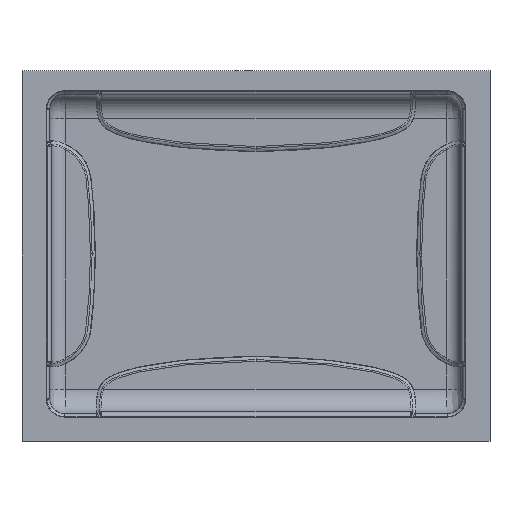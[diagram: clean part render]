
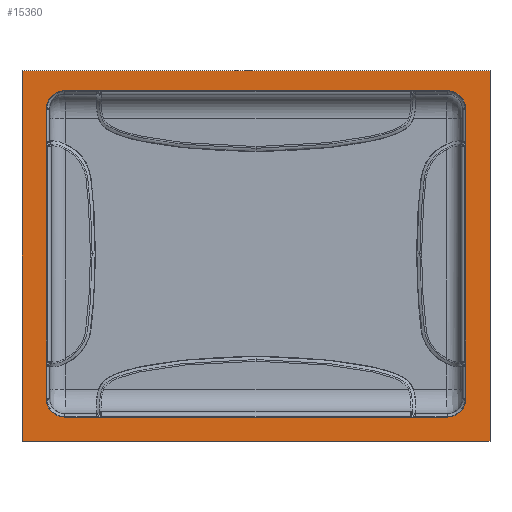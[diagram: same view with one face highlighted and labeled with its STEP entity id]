
A CAD part, front view. The second image highlights one B-rep face of the part: STEP entity #15360.
In plain terms, the highlighted planar face has unit normal (0, -1, 0).
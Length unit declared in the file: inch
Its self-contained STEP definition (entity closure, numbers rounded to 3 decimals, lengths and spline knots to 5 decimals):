
#86 = VECTOR ( 'NONE', #10692, 39.37008 ) ;
#95 = DIRECTION ( 'NONE',  ( 1., 0., 0. ) ) ;
#137 = ORIENTED_EDGE ( 'NONE', *, *, #2516, .T. ) ;
#902 = EDGE_CURVE ( 'NONE', #22238, #20804, #23132, .T. ) ;
#1023 = CARTESIAN_POINT ( 'NONE',  ( -11.25629, 0., -10.06135 ) ) ;
#1305 = DIRECTION ( 'NONE',  ( -1., 0., 0. ) ) ;
#1983 = ORIENTED_EDGE ( 'NONE', *, *, #4108, .T. ) ;
#2516 = EDGE_CURVE ( 'NONE', #20434, #21615, #12519, .T. ) ;
#2784 = LINE ( 'NONE', #14876, #18241 ) ;
#3796 = ORIENTED_EDGE ( 'NONE', *, *, #5073, .F. ) ;
#3828 = VERTEX_POINT ( 'NONE', #8067 ) ;
#4108 = EDGE_CURVE ( 'NONE', #21615, #22238, #5225, .T. ) ;
#4146 = FACE_BOUND ( 'NONE', #15348, .T. ) ;
#4291 = DIRECTION ( 'NONE',  ( 0., -1., 0. ) ) ;
#4378 = ORIENTED_EDGE ( 'NONE', *, *, #21601, .F. ) ;
#4392 = PLANE ( 'NONE',  #13580 ) ;
#4981 = DIRECTION ( 'NONE',  ( 0., 0., 1. ) ) ;
#5073 = EDGE_CURVE ( 'NONE', #3828, #22304, #2784, .T. ) ;
#5225 = LINE ( 'NONE', #24230, #86 ) ;
#5334 = CARTESIAN_POINT ( 'NONE',  ( -11.25629, 0., 7.79135 ) ) ;
#5882 = VERTEX_POINT ( 'NONE', #20317 ) ;
#5930 = EDGE_CURVE ( 'NONE', #12749, #5882, #23689, .T. ) ;
#5931 = DIRECTION ( 'NONE',  ( 0., -1., 0. ) ) ;
#6530 = EDGE_LOOP ( 'NONE', ( #13279, #14125, #137, #1983 ) ) ;
#6563 = EDGE_CURVE ( 'NONE', #20804, #20434, #23317, .T. ) ;
#7244 = FACE_OUTER_BOUND ( 'NONE', #6530, .T. ) ;
#7856 = CARTESIAN_POINT ( 'NONE',  ( -10.29135, 0., 7.79135 ) ) ;
#7867 = CARTESIAN_POINT ( 'NONE',  ( 12.56135, 0., 9.8376 ) ) ;
#7887 = EDGE_CURVE ( 'NONE', #10789, #11804, #8138, .T. ) ;
#8067 = CARTESIAN_POINT ( 'NONE',  ( 10.29135, 0., 8.75629 ) ) ;
#8138 = CIRCLE ( 'NONE', #21780, 0.96494 ) ;
#8267 = VECTOR ( 'NONE', #23303, 39.37008 ) ;
#8432 = LINE ( 'NONE', #20377, #22673 ) ;
#9059 = CARTESIAN_POINT ( 'NONE',  ( 12.56135, 0., -10.06135 ) ) ;
#9468 = CARTESIAN_POINT ( 'NONE',  ( -10.29135, 0., 8.75629 ) ) ;
#9626 = VECTOR ( 'NONE', #95, 39.37008 ) ;
#9761 = CARTESIAN_POINT ( 'NONE',  ( -12.56137, 0., 9.8376 ) ) ;
#9814 = DIRECTION ( 'NONE',  ( 0., 0., -1. ) ) ;
#9933 = ORIENTED_EDGE ( 'NONE', *, *, #17799, .F. ) ;
#9950 = CIRCLE ( 'NONE', #14410, 0.96494 ) ;
#10239 = DIRECTION ( 'NONE',  ( 0., 0., -1. ) ) ;
#10676 = DIRECTION ( 'NONE',  ( 0., 0., 1. ) ) ;
#10684 = DIRECTION ( 'NONE',  ( 0., 0., -1. ) ) ;
#10692 = DIRECTION ( 'NONE',  ( -1., 0., 0. ) ) ;
#10789 = VERTEX_POINT ( 'NONE', #18988 ) ;
#11085 = DIRECTION ( 'NONE',  ( 0., -1., 0. ) ) ;
#11804 = VERTEX_POINT ( 'NONE', #24494 ) ;
#12253 = VERTEX_POINT ( 'NONE', #21435 ) ;
#12519 = LINE ( 'NONE', #9059, #17060 ) ;
#12631 = AXIS2_PLACEMENT_3D ( 'NONE', #7856, #21392, #9814 ) ;
#12749 = VERTEX_POINT ( 'NONE', #5334 ) ;
#13279 = ORIENTED_EDGE ( 'NONE', *, *, #902, .T. ) ;
#13580 = AXIS2_PLACEMENT_3D ( 'NONE', #18713, #21812, #10239 ) ;
#13706 = CARTESIAN_POINT ( 'NONE',  ( -12.56133, 0., -10.06135 ) ) ;
#14125 = ORIENTED_EDGE ( 'NONE', *, *, #6563, .T. ) ;
#14146 = CARTESIAN_POINT ( 'NONE',  ( 11.25629, 0., 7.79135 ) ) ;
#14410 = AXIS2_PLACEMENT_3D ( 'NONE', #17547, #5931, #19473 ) ;
#14531 = EDGE_CURVE ( 'NONE', #5882, #12253, #16864, .T. ) ;
#14776 = LINE ( 'NONE', #23295, #9626 ) ;
#14876 = CARTESIAN_POINT ( 'NONE',  ( -12.56133, 0., 8.75629 ) ) ;
#14934 = ORIENTED_EDGE ( 'NONE', *, *, #5930, .F. ) ;
#15348 = EDGE_LOOP ( 'NONE', ( #3796, #4378, #9933, #20950, #21969, #15731, #14934, #23869 ) ) ;
#15360 = ADVANCED_FACE ( 'NONE', ( #4146, #7244 ), #4392, .T. ) ;
#15731 = ORIENTED_EDGE ( 'NONE', *, *, #14531, .F. ) ;
#15897 = CARTESIAN_POINT ( 'NONE',  ( -10.29135, 0., -7.79135 ) ) ;
#16864 = CIRCLE ( 'NONE', #18260, 0.96494 ) ;
#17060 = VECTOR ( 'NONE', #10676, 39.37008 ) ;
#17186 = CARTESIAN_POINT ( 'NONE',  ( -12.56137, 0., 9.8376 ) ) ;
#17512 = DIRECTION ( 'NONE',  ( 1., 0., 0. ) ) ;
#17547 = CARTESIAN_POINT ( 'NONE',  ( 10.29135, 0., 7.79135 ) ) ;
#17573 = VECTOR ( 'NONE', #17512, 39.37008 ) ;
#17799 = EDGE_CURVE ( 'NONE', #11804, #20837, #8432, .T. ) ;
#17844 = DIRECTION ( 'NONE',  ( 0., 0., -1. ) ) ;
#17934 = VECTOR ( 'NONE', #10684, 39.37008 ) ;
#18241 = VECTOR ( 'NONE', #1305, 39.37008 ) ;
#18260 = AXIS2_PLACEMENT_3D ( 'NONE', #15897, #4291, #17844 ) ;
#18713 = CARTESIAN_POINT ( 'NONE',  ( -12.56133, 0., -10.06135 ) ) ;
#18988 = CARTESIAN_POINT ( 'NONE',  ( 10.29135, 0., -8.75629 ) ) ;
#19473 = DIRECTION ( 'NONE',  ( 0., 0., -1. ) ) ;
#20317 = CARTESIAN_POINT ( 'NONE',  ( -11.25629, 0., -7.79135 ) ) ;
#20377 = CARTESIAN_POINT ( 'NONE',  ( 11.25629, 0., -10.06135 ) ) ;
#20434 = VERTEX_POINT ( 'NONE', #21849 ) ;
#20804 = VERTEX_POINT ( 'NONE', #23206 ) ;
#20837 = VERTEX_POINT ( 'NONE', #14146 ) ;
#20950 = ORIENTED_EDGE ( 'NONE', *, *, #7887, .F. ) ;
#21392 = DIRECTION ( 'NONE',  ( 0., -1., 0. ) ) ;
#21435 = CARTESIAN_POINT ( 'NONE',  ( -10.29135, 0., -8.75629 ) ) ;
#21601 = EDGE_CURVE ( 'NONE', #20837, #3828, #9950, .T. ) ;
#21615 = VERTEX_POINT ( 'NONE', #7867 ) ;
#21780 = AXIS2_PLACEMENT_3D ( 'NONE', #22662, #11085, #24613 ) ;
#21812 = DIRECTION ( 'NONE',  ( 0., -1., 0. ) ) ;
#21849 = CARTESIAN_POINT ( 'NONE',  ( 12.56135, 0., -10.06135 ) ) ;
#21969 = ORIENTED_EDGE ( 'NONE', *, *, #23124, .F. ) ;
#22238 = VERTEX_POINT ( 'NONE', #17186 ) ;
#22304 = VERTEX_POINT ( 'NONE', #9468 ) ;
#22323 = CIRCLE ( 'NONE', #12631, 0.96494 ) ;
#22430 = EDGE_CURVE ( 'NONE', #22304, #12749, #22323, .T. ) ;
#22662 = CARTESIAN_POINT ( 'NONE',  ( 10.29135, 0., -7.79135 ) ) ;
#22673 = VECTOR ( 'NONE', #4981, 39.37008 ) ;
#23124 = EDGE_CURVE ( 'NONE', #12253, #10789, #14776, .T. ) ;
#23132 = LINE ( 'NONE', #9761, #8267 ) ;
#23206 = CARTESIAN_POINT ( 'NONE',  ( -12.56133, 0., -10.06135 ) ) ;
#23295 = CARTESIAN_POINT ( 'NONE',  ( -12.56133, 0., -8.75629 ) ) ;
#23303 = DIRECTION ( 'NONE',  ( 0., 0., -1. ) ) ;
#23317 = LINE ( 'NONE', #13706, #17573 ) ;
#23689 = LINE ( 'NONE', #1023, #17934 ) ;
#23869 = ORIENTED_EDGE ( 'NONE', *, *, #22430, .F. ) ;
#24230 = CARTESIAN_POINT ( 'NONE',  ( 12.56135, 0., 9.8376 ) ) ;
#24494 = CARTESIAN_POINT ( 'NONE',  ( 11.25629, 0., -7.79135 ) ) ;
#24613 = DIRECTION ( 'NONE',  ( 0., 0., -1. ) ) ;
